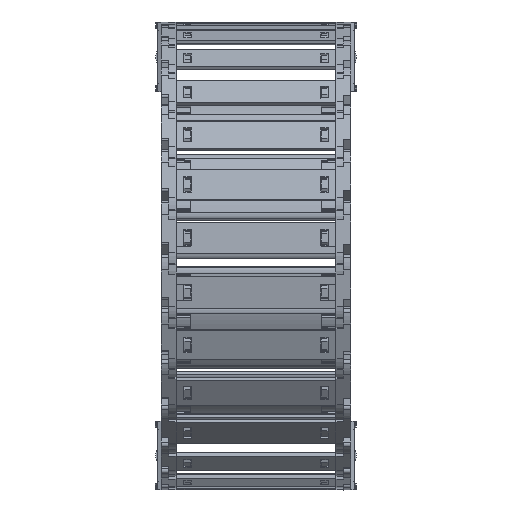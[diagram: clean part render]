
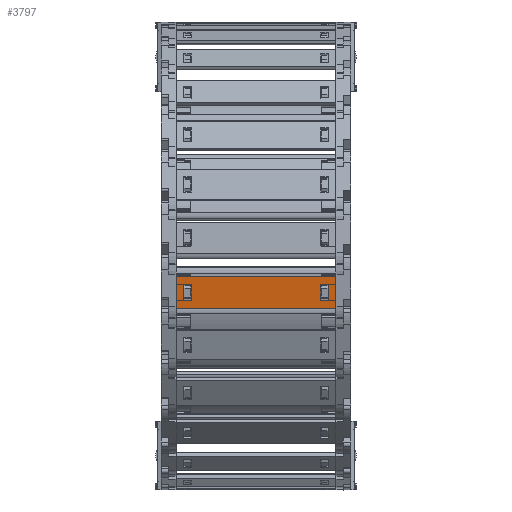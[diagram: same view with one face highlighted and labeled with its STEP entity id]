
A CAD part, top view. The second image highlights one B-rep face of the part: STEP entity #3797.
In plain terms, the highlighted planar face has unit normal (0, -0.156, 0.988) as drawn and (0, 1, 0) by its records, which use the part's own axes.
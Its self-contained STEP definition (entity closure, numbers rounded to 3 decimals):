
#2923=DIRECTION('',(0.,0.,1.));
#2924=VECTOR('',#2923,15.8);
#2925=CARTESIAN_POINT('',(65.74,1.5,-7.9));
#2926=LINE('',#2925,#2924);
#2930=DIRECTION('',(-1.,0.,0.));
#2931=VECTOR('',#2930,80.5);
#2932=CARTESIAN_POINT('',(65.74,1.5,7.9));
#2933=LINE('',#2932,#2931);
#2937=DIRECTION('',(0.,0.,-1.));
#2938=VECTOR('',#2937,15.8);
#2939=CARTESIAN_POINT('',(-14.76,1.5,7.9));
#2940=LINE('',#2939,#2938);
#2944=DIRECTION('',(1.,0.,0.));
#2945=VECTOR('',#2944,3.648);
#2946=CARTESIAN_POINT('',(58.122,1.5,4.075));
#2947=LINE('',#2946,#2945);
#2951=DIRECTION('',(0.,0.,-1.));
#2952=VECTOR('',#2951,8.15);
#2953=CARTESIAN_POINT('',(61.77,1.5,4.075));
#2954=LINE('',#2953,#2952);
#2958=DIRECTION('',(-1.,0.,0.));
#2959=VECTOR('',#2958,3.648);
#2960=CARTESIAN_POINT('',(61.77,1.5,-4.075));
#2961=LINE('',#2960,#2959);
#2965=DIRECTION('',(0.,0.,-1.));
#2966=VECTOR('',#2965,8.15);
#2967=CARTESIAN_POINT('',(-7.142,1.5,4.075));
#2968=LINE('',#2967,#2966);
#2972=DIRECTION('',(-1.,0.,0.));
#2973=VECTOR('',#2972,3.648);
#2974=CARTESIAN_POINT('',(-7.142,1.5,-4.075));
#2975=LINE('',#2974,#2973);
#2979=DIRECTION('',(0.,0.,1.));
#2980=VECTOR('',#2979,8.15);
#2981=CARTESIAN_POINT('',(-10.79,1.5,-4.075));
#2982=LINE('',#2981,#2980);
#2986=DIRECTION('',(1.,0.,0.));
#2987=VECTOR('',#2986,3.648);
#2988=CARTESIAN_POINT('',(-10.79,1.5,4.075));
#2989=LINE('',#2988,#2987);
#3000=DIRECTION('',(-1.,0.,0.));
#3001=VECTOR('',#3000,80.5);
#3002=CARTESIAN_POINT('',(65.74,1.5,-7.9));
#3003=LINE('',#3002,#3001);
#3208=DIRECTION('',(0.,0.,-1.));
#3209=VECTOR('',#3208,8.15);
#3210=CARTESIAN_POINT('',(58.122,1.5,4.075));
#3211=LINE('',#3210,#3209);
#3507=CARTESIAN_POINT('',(61.77,1.5,4.075));
#3508=VERTEX_POINT('',#3507);
#3509=CARTESIAN_POINT('',(58.122,1.5,4.075));
#3510=VERTEX_POINT('',#3509);
#3551=CARTESIAN_POINT('',(58.122,1.5,-4.075));
#3552=VERTEX_POINT('',#3551);
#3553=CARTESIAN_POINT('',(61.77,1.5,-4.075));
#3554=VERTEX_POINT('',#3553);
#3555=CARTESIAN_POINT('',(65.74,1.5,7.9));
#3557=VERTEX_POINT('',#3555);
#3559=CARTESIAN_POINT('',(65.74,1.5,-7.9));
#3560=VERTEX_POINT('',#3559);
#3583=CARTESIAN_POINT('',(-7.142,1.5,4.075));
#3584=CARTESIAN_POINT('',(-7.142,1.5,-4.075));
#3585=VERTEX_POINT('',#3583);
#3586=VERTEX_POINT('',#3584);
#3587=CARTESIAN_POINT('',(-10.79,1.5,-4.075));
#3588=VERTEX_POINT('',#3587);
#3589=CARTESIAN_POINT('',(-10.79,1.5,4.075));
#3590=VERTEX_POINT('',#3589);
#3591=CARTESIAN_POINT('',(-14.76,1.5,7.9));
#3592=VERTEX_POINT('',#3591);
#3595=CARTESIAN_POINT('',(-14.76,1.5,-7.9));
#3596=VERTEX_POINT('',#3595);
#3766=CARTESIAN_POINT('',(97.48,1.5,10.061));
#3767=DIRECTION('',(0.,-1.,0.));
#3768=DIRECTION('',(0.,0.,-1.));
#3769=AXIS2_PLACEMENT_3D('',#3766,#3767,#3768);
#3770=PLANE('',#3769);
#3771=ORIENTED_EDGE('',*,*,#3669,.T.);
#3772=ORIENTED_EDGE('',*,*,#3707,.T.);
#3773=ORIENTED_EDGE('',*,*,#3732,.T.);
#3775=ORIENTED_EDGE('',*,*,#3774,.F.);
#3776=EDGE_LOOP('',(#3771,#3772,#3773,#3775));
#3777=FACE_OUTER_BOUND('',#3776,.F.);
#3779=ORIENTED_EDGE('',*,*,#3778,.F.);
#3780=ORIENTED_EDGE('',*,*,#3608,.T.);
#3782=ORIENTED_EDGE('',*,*,#3781,.T.);
#3784=ORIENTED_EDGE('',*,*,#3783,.T.);
#3785=EDGE_LOOP('',(#3779,#3780,#3782,#3784));
#3786=FACE_BOUND('',#3785,.F.);
#3788=ORIENTED_EDGE('',*,*,#3787,.T.);
#3790=ORIENTED_EDGE('',*,*,#3789,.T.);
#3792=ORIENTED_EDGE('',*,*,#3791,.T.);
#3794=ORIENTED_EDGE('',*,*,#3793,.T.);
#3795=EDGE_LOOP('',(#3788,#3790,#3792,#3794));
#3796=FACE_BOUND('',#3795,.F.);
#3797=ADVANCED_FACE('',(#3777,#3786,#3796),#3770,.F.);
#3608=EDGE_CURVE('',#3510,#3508,#2947,.T.);
#3669=EDGE_CURVE('',#3560,#3557,#2926,.T.);
#3707=EDGE_CURVE('',#3557,#3592,#2933,.T.);
#3732=EDGE_CURVE('',#3592,#3596,#2940,.T.);
#3774=EDGE_CURVE('',#3560,#3596,#3003,.T.);
#3778=EDGE_CURVE('',#3510,#3552,#3211,.T.);
#3781=EDGE_CURVE('',#3508,#3554,#2954,.T.);
#3783=EDGE_CURVE('',#3554,#3552,#2961,.T.);
#3787=EDGE_CURVE('',#3585,#3586,#2968,.T.);
#3789=EDGE_CURVE('',#3586,#3588,#2975,.T.);
#3791=EDGE_CURVE('',#3588,#3590,#2982,.T.);
#3793=EDGE_CURVE('',#3590,#3585,#2989,.T.);
